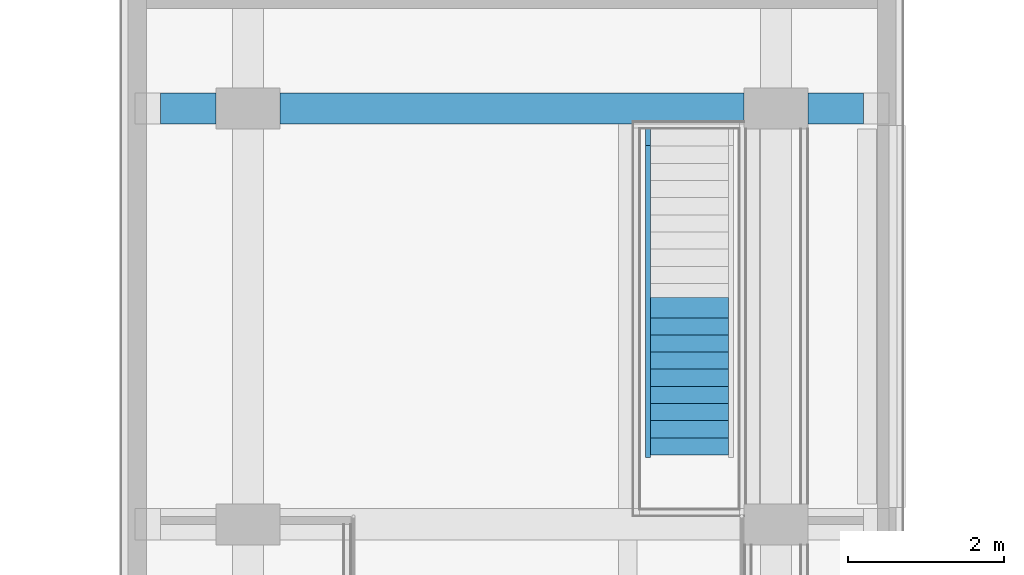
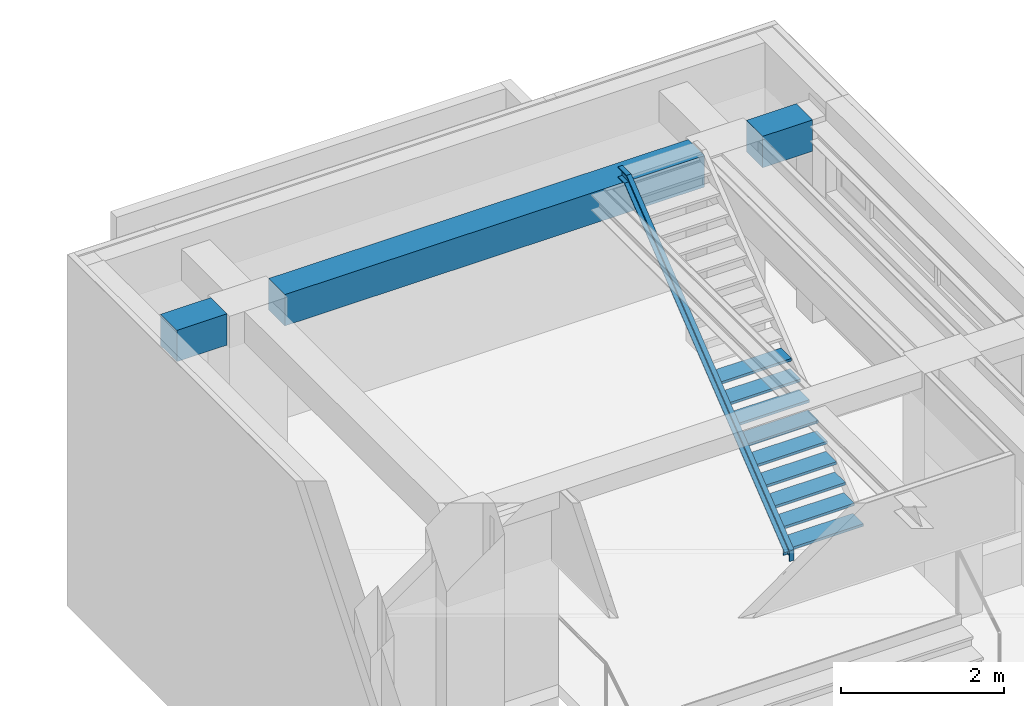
# One storey, part 65 of 135: 10 members, 1 beam, 1 element without a shape of its own.
"""IFC2X3 building model written with IfcOpenShell, lengths in millimetres."""

from ifc_helpers import new_model, entity, si_unit, converted_unit, derived_unit, money_unit, direction, frame, origin_with_axes, place, context, subcontext, project, spatial, faceted_brep, material, type_object, element, aggregate, save


model = new_model("IFC2X3")

# Units and contexts
model_context = context("Model", 3, precision=0.01, world=origin_with_axes(), true_north=direction((0.0, 1.0)))
body_context = subcontext(model_context, "Body", "Model", "MODEL_VIEW")
ifc_project = project(units=[si_unit("LENGTHUNIT", "METRE", prefix="MILLI"), si_unit("AREAUNIT", "SQUARE_METRE"), si_unit("VOLUMEUNIT", "CUBIC_METRE"), converted_unit("PLANEANGLEUNIT", "DEGREE", entity("IfcPlaneAngleMeasure", 0.0174532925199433), si_unit("PLANEANGLEUNIT", "RADIAN"), dimensions=[0, 0, 0, 0, 0, 0, 0]), money_unit("EUR"), converted_unit("TIMEUNIT", "Year", entity("IfcTimeMeasure", 31557600.0), si_unit("TIMEUNIT", "SECOND"), dimensions=[0, 0, 1, 0, 0, 0, 0]), si_unit("MASSUNIT", "GRAM", prefix="KILO"), si_unit("THERMODYNAMICTEMPERATUREUNIT", "DEGREE_CELSIUS"), si_unit("LUMINOUSINTENSITYUNIT", "LUMEN"), si_unit("ENERGYUNIT", "JOULE", prefix="MEGA"), derived_unit("THERMALCONDUCTANCEUNIT", [(si_unit("POWERUNIT", "WATT"), 1), (si_unit("LENGTHUNIT", "METRE"), -1), (si_unit("THERMODYNAMICTEMPERATUREUNIT", "KELVIN"), -1)]), derived_unit("SPECIFICHEATCAPACITYUNIT", [(si_unit("ENERGYUNIT", "JOULE"), 1), (si_unit("MASSUNIT", "GRAM", prefix="KILO"), -1), (si_unit("THERMODYNAMICTEMPERATUREUNIT", "KELVIN"), -1)]), derived_unit("MASSDENSITYUNIT", [(si_unit("MASSUNIT", "GRAM", prefix="KILO"), 1), (si_unit("VOLUMEUNIT", "CUBIC_METRE"), -1)])], contexts=[model_context])

# Site, building, storey
site_placement = place(None, origin_with_axes())
site = spatial("IfcSite", under=ifc_project, at=site_placement, Name="Site", CompositionType="ELEMENT")
building_placement = place(site_placement, origin_with_axes())
building = spatial("IfcBuilding", under=site, at=building_placement, Name="Naam gebouw", CompositionType="ELEMENT")
storey_placement = place(building_placement, origin_with_axes())
storey = spatial("IfcBuildingStorey", under=building, at=storey_placement, Name="Begane grond N", CompositionType="ELEMENT", Elevation=0.0)

# Stair, members
stair_placement = place(storey_placement, frame((26995.99999999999, 50163.41242510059, 800.0), z_axis=(0.0, 0.0, 1.0), x_axis=(1.0, 0.0, 0.0)))
stair = element("IfcStair", 1, at=stair_placement, inside=storey, Name="_Trap-x", ShapeType="NOTDEFINED")
ifc_material_1 = material(Name="Metaal - Staal C")
member_type_1 = type_object("IfcMemberType", Name="IfcMember", PredefinedType="NOTDEFINED")
member_1_placement = place(stair_placement, origin_with_axes())
member_1 = element("IfcMember", 2, at=member_1_placement, type_object=member_type_1, material=ifc_material_1, Name="_Trapconstructie-x", context=body_context, shape_type="Brep", body=[
    faceted_brep([(-65.00000000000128, 130.0000000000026, 0.0), (-65.00000000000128, 130.0000000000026, 81.86647783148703), (0.0, 130.0000000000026, 81.86647783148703), (0.0, 130.0000000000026, 0.0), (-65.00000000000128, 119.5000000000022, 0.0), (-65.00000000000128, 119.5000000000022, 86.9073873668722), (-65.00000000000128, 96.9335565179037, 55.36585925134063), (0.0, 96.9335565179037, 55.36585925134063), (0.0, -30.00000000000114, 158.6803374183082), (0.0, -30.00000000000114, 0.0), (-65.00000000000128, -30.00000000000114, 0.0), (-65.00000000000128, -19.50000000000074, 0.0), (-7.500000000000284, -19.50000000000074, 0.0), (-7.500000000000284, 119.5000000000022, 0.0), (-7.500000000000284, 119.5000000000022, 86.9073873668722), (-65.00000000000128, 90.36708978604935, 63.55924162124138), (-65.00000000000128, 316.9335565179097, 231.6816487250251), (0.0, 316.9335565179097, 231.6816487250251), (0.0, -3.126888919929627, 180.2174001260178), (-65.00000000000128, -30.00000000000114, 158.6803374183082), (-65.00000000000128, -19.50000000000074, 153.6394278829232), (-7.500000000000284, -19.50000000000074, 153.6394278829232), (-7.500000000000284, 90.36708978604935, 63.55924162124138), (-65.00000000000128, 310.3670897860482, 239.8750310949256), (-65.00000000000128, 536.9335565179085, 407.9974381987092), (0.0, 536.9335565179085, 407.9974381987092), (0.0, 216.8731110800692, 356.5331895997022), (-65.00000000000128, -3.126888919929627, 180.2174001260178), (-65.00000000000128, 3.439577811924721, 172.0240177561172), (-7.500000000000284, 3.439577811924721, 172.0240177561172), (-7.500000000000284, 310.3670897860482, 239.8750310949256), (-65.00000000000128, 530.367089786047, 416.19082056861), (-65.00000000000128, 756.9335565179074, 584.3132276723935), (0.0, 756.9335565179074, 584.3132276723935), (0.0, 436.8731110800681, 532.8489790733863), (-65.00000000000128, 216.8731110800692, 356.5331895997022), (-65.00000000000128, 223.4395778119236, 348.3398072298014), (-7.500000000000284, 223.4395778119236, 348.3398072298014), (-7.500000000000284, 530.367089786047, 416.19082056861), (-65.00000000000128, 750.3670897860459, 592.506610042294), (-65.00000000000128, 976.9335565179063, 760.6290171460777), (0.0, 976.9335565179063, 760.6290171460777), (0.0, 656.873111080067, 709.1647685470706), (-65.00000000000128, 436.8731110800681, 532.8489790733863), (-65.00000000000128, 443.4395778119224, 524.6555967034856), (-7.500000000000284, 443.4395778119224, 524.6555967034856), (-7.500000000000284, 750.3670897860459, 592.506610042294), (-65.00000000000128, 970.3670897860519, 768.8223995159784), (-65.00000000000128, 1196.933556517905, 936.9448066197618), (0.0, 1196.933556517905, 936.9448066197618), (0.0, 876.8731110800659, 885.4805580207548), (-65.00000000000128, 656.873111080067, 709.1647685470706), (-65.00000000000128, 663.4395778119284, 700.9713861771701), (-7.500000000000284, 663.4395778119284, 700.9713861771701), (-7.500000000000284, 970.3670897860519, 768.8223995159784), (-65.00000000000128, 1190.367089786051, 945.1381889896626), (-65.00000000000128, 1416.933556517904, 1113.260596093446), (0.0, 1416.933556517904, 1113.260596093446), (0.0, 1096.873111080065, 1061.796347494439), (-65.00000000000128, 876.8731110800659, 885.4805580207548), (-65.00000000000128, 883.4395778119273, 877.287175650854), (-7.500000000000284, 883.4395778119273, 877.287175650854), (-7.500000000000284, 1190.367089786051, 945.1381889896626), (-65.00000000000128, 1410.36708978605, 1121.453978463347), (-65.00000000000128, 1636.93355651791, 1289.57638556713), (0.0, 1636.93355651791, 1289.57638556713), (0.0, 1316.873111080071, 1238.112136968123), (-65.00000000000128, 1096.873111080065, 1061.796347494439), (-65.00000000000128, 1103.439577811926, 1053.602965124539), (-7.500000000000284, 1103.439577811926, 1053.602965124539), (-7.500000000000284, 1410.36708978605, 1121.453978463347), (-65.00000000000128, 1630.367089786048, 1297.769767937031), (-65.00000000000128, 1856.933556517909, 1465.892175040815), (0.0, 1856.933556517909, 1465.892175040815), (0.0, 1536.87311108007, 1414.427926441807), (-65.00000000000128, 1316.873111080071, 1238.112136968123), (-65.00000000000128, 1323.439577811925, 1229.918754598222), (-7.500000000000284, 1323.439577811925, 1229.918754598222), (-7.500000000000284, 1630.367089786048, 1297.769767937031), (-65.00000000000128, 1850.367089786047, 1474.085557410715), (-65.00000000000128, 2076.933556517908, 1642.207964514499), (0.0, 2076.933556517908, 1642.207964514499), (0.0, 1756.873111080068, 1590.743715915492), (-65.00000000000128, 1536.87311108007, 1414.427926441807), (-65.00000000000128, 1543.439577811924, 1406.234544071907), (-7.500000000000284, 1543.439577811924, 1406.234544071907), (-7.500000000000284, 1850.367089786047, 1474.085557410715), (-65.00000000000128, 2070.367089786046, 1650.4013468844), (-65.00000000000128, 2296.933556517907, 1818.523753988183), (0.0, 2296.933556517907, 1818.523753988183), (0.0, 1976.873111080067, 1767.059505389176), (-65.00000000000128, 1756.873111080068, 1590.743715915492), (-65.00000000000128, 1763.439577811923, 1582.550333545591), (-7.500000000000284, 1763.439577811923, 1582.550333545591), (-7.500000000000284, 2070.367089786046, 1650.4013468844), (-65.00000000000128, 2290.367089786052, 1826.717136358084), (-65.00000000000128, 2516.933556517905, 1994.839543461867), (0.0, 2516.933556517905, 1994.839543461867), (0.0, 2196.873111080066, 1943.37529486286), (-65.00000000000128, 1976.873111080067, 1767.059505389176), (-65.00000000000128, 1983.439577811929, 1758.866123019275), (-7.500000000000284, 1983.439577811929, 1758.866123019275), (-7.500000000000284, 2290.367089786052, 1826.717136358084), (-65.00000000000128, 2510.367089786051, 2003.032925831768), (-65.00000000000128, 2736.933556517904, 2171.155332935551), (0.0, 2736.933556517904, 2171.155332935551), (0.0, 2416.873111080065, 2119.691084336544), (-65.00000000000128, 2196.873111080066, 1943.37529486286), (-65.00000000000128, 2203.439577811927, 1935.181912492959), (-7.500000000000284, 2203.439577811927, 1935.181912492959), (-7.500000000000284, 2510.367089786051, 2003.032925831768), (-65.00000000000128, 2730.36708978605, 2179.348715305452), (-65.00000000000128, 2956.933556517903, 2347.471122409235), (0.0, 2956.933556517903, 2347.471122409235), (0.0, 2636.873111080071, 2296.006873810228), (-65.00000000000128, 2416.873111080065, 2119.691084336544), (-65.00000000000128, 2423.439577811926, 2111.497701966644), (-7.500000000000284, 2423.439577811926, 2111.497701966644), (-7.500000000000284, 2730.36708978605, 2179.348715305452), (-65.00000000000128, 2950.367089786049, 2355.664504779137), (-65.00000000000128, 3176.933556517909, 2523.78691188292), (0.0, 3176.933556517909, 2523.78691188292), (0.0, 2856.87311108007, 2472.322663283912), (-65.00000000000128, 2636.873111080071, 2296.006873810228), (-65.00000000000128, 2643.439577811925, 2287.813491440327), (-7.500000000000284, 2643.439577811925, 2287.813491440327), (-7.500000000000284, 2950.367089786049, 2355.664504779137), (-65.00000000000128, 3170.367089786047, 2531.98029425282), (-65.00000000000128, 3396.933556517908, 2700.102701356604), (0.0, 3396.933556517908, 2700.102701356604), (0.0, 3076.873111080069, 2648.638452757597), (-65.00000000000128, 2856.87311108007, 2472.322663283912), (-65.00000000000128, 2863.439577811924, 2464.129280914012), (-7.500000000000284, 2863.439577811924, 2464.129280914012), (-7.500000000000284, 3170.367089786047, 2531.98029425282), (-65.00000000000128, 3390.367089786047, 2708.296083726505), (-65.00000000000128, 3616.933556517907, 2876.418490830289), (0.0, 3616.933556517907, 2876.418490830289), (0.0, 3296.873111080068, 2824.954242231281), (-65.00000000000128, 3076.873111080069, 2648.638452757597), (-65.00000000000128, 3083.439577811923, 2640.445070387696), (-7.500000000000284, 3083.439577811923, 2640.445070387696), (-7.500000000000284, 3390.367089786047, 2708.296083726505), (-65.00000000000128, 3610.367089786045, 2884.611873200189), (-65.00000000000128, 3836.933556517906, 3052.734280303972), (0.0, 3836.933556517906, 3052.734280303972), (0.0, 3516.873111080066, 3001.270031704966), (-65.00000000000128, 3296.873111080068, 2824.954242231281), (-65.00000000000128, 3303.439577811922, 2816.760859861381), (-7.500000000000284, 3303.439577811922, 2816.760859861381), (-7.500000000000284, 3610.367089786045, 2884.611873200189), (-65.00000000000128, 3830.367089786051, 3060.927662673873), (-65.00000000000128, 4024.054961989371, 3202.700000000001), (0.0, 4024.054961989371, 3202.700000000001), (0.0, 3736.873111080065, 3177.585821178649), (-65.00000000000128, 3516.873111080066, 3001.270031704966), (-65.00000000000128, 3523.439577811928, 2993.076649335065), (-7.500000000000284, 3523.439577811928, 2993.076649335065), (-7.500000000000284, 3830.367089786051, 3060.927662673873), (-65.00000000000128, 4020.36660322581, 3213.200000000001), (-65.00000000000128, 4180.0, 3202.7), (0.0, 4180.0, 3202.7), (0.0, 3967.85139987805, 3362.7), (-65.00000000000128, 3736.873111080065, 3177.585821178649), (-65.00000000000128, 3743.439577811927, 3169.392438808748), (-7.500000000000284, 3743.439577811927, 3169.392438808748), (-7.500000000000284, 4020.36660322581, 3213.200000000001), (-65.00000000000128, 4180.0, 3213.200000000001), (-7.500000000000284, 4180.0, 3213.200000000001), (-7.500000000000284, 4180.0, 3352.200000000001), (-65.00000000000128, 4180.0, 3352.200000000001), (-65.00000000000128, 4180.0, 3362.7), (0.0, 4180.0, 3362.7), (-65.00000000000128, 3967.85139987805, 3362.7), (-65.00000000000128, 3971.539758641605, 3352.200000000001), (-7.500000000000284, 3971.539758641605, 3352.200000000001)], [[[0, 1, 2, 3]], [[4, 5, 1, 0]], [[2, 1, 6, 7]], [[3, 2, 8, 9]], [[3, 9, 10, 11, 12, 13, 4, 0]], [[13, 14, 5, 4]], [[1, 5, 15, 6]], [[7, 6, 16, 17]], [[8, 2, 7, 18]], [[9, 8, 19, 10]], [[10, 19, 20, 11]], [[11, 20, 21, 12]], [[12, 21, 14, 13]], [[5, 14, 22, 15]], [[6, 15, 23, 16]], [[17, 16, 24, 25]], [[18, 7, 17, 26]], [[19, 8, 18, 27]], [[20, 19, 27, 28]], [[21, 20, 28, 29]], [[14, 21, 29, 22]], [[15, 22, 30, 23]], [[16, 23, 31, 24]], [[25, 24, 32, 33]], [[26, 17, 25, 34]], [[27, 18, 26, 35]], [[28, 27, 35, 36]], [[29, 28, 36, 37]], [[22, 29, 37, 30]], [[23, 30, 38, 31]], [[24, 31, 39, 32]], [[33, 32, 40, 41]], [[34, 25, 33, 42]], [[35, 26, 34, 43]], [[36, 35, 43, 44]], [[37, 36, 44, 45]], [[30, 37, 45, 38]], [[31, 38, 46, 39]], [[32, 39, 47, 40]], [[41, 40, 48, 49]], [[42, 33, 41, 50]], [[43, 34, 42, 51]], [[44, 43, 51, 52]], [[45, 44, 52, 53]], [[38, 45, 53, 46]], [[39, 46, 54, 47]], [[40, 47, 55, 48]], [[49, 48, 56, 57]], [[50, 41, 49, 58]], [[51, 42, 50, 59]], [[52, 51, 59, 60]], [[53, 52, 60, 61]], [[46, 53, 61, 54]], [[47, 54, 62, 55]], [[48, 55, 63, 56]], [[57, 56, 64, 65]], [[58, 49, 57, 66]], [[59, 50, 58, 67]], [[60, 59, 67, 68]], [[61, 60, 68, 69]], [[54, 61, 69, 62]], [[55, 62, 70, 63]], [[56, 63, 71, 64]], [[65, 64, 72, 73]], [[66, 57, 65, 74]], [[67, 58, 66, 75]], [[68, 67, 75, 76]], [[69, 68, 76, 77]], [[62, 69, 77, 70]], [[63, 70, 78, 71]], [[64, 71, 79, 72]], [[73, 72, 80, 81]], [[74, 65, 73, 82]], [[75, 66, 74, 83]], [[76, 75, 83, 84]], [[77, 76, 84, 85]], [[70, 77, 85, 78]], [[71, 78, 86, 79]], [[72, 79, 87, 80]], [[81, 80, 88, 89]], [[82, 73, 81, 90]], [[83, 74, 82, 91]], [[84, 83, 91, 92]], [[85, 84, 92, 93]], [[78, 85, 93, 86]], [[79, 86, 94, 87]], [[80, 87, 95, 88]], [[89, 88, 96, 97]], [[90, 81, 89, 98]], [[91, 82, 90, 99]], [[92, 91, 99, 100]], [[93, 92, 100, 101]], [[86, 93, 101, 94]], [[87, 94, 102, 95]], [[88, 95, 103, 96]], [[97, 96, 104, 105]], [[98, 89, 97, 106]], [[99, 90, 98, 107]], [[100, 99, 107, 108]], [[101, 100, 108, 109]], [[94, 101, 109, 102]], [[95, 102, 110, 103]], [[96, 103, 111, 104]], [[105, 104, 112, 113]], [[106, 97, 105, 114]], [[107, 98, 106, 115]], [[108, 107, 115, 116]], [[109, 108, 116, 117]], [[102, 109, 117, 110]], [[103, 110, 118, 111]], [[104, 111, 119, 112]], [[113, 112, 120, 121]], [[114, 105, 113, 122]], [[115, 106, 114, 123]], [[116, 115, 123, 124]], [[117, 116, 124, 125]], [[110, 117, 125, 118]], [[111, 118, 126, 119]], [[112, 119, 127, 120]], [[121, 120, 128, 129]], [[122, 113, 121, 130]], [[123, 114, 122, 131]], [[124, 123, 131, 132]], [[125, 124, 132, 133]], [[118, 125, 133, 126]], [[119, 126, 134, 127]], [[120, 127, 135, 128]], [[129, 128, 136, 137]], [[130, 121, 129, 138]], [[131, 122, 130, 139]], [[132, 131, 139, 140]], [[133, 132, 140, 141]], [[126, 133, 141, 134]], [[127, 134, 142, 135]], [[128, 135, 143, 136]], [[137, 136, 144, 145]], [[138, 129, 137, 146]], [[139, 130, 138, 147]], [[140, 139, 147, 148]], [[141, 140, 148, 149]], [[134, 141, 149, 142]], [[135, 142, 150, 143]], [[136, 143, 151, 144]], [[145, 144, 152, 153]], [[146, 137, 145, 154]], [[147, 138, 146, 155]], [[148, 147, 155, 156]], [[149, 148, 156, 157]], [[142, 149, 157, 150]], [[143, 150, 158, 151]], [[144, 151, 159, 152]], [[153, 152, 160, 161]], [[154, 145, 153, 162]], [[155, 146, 154, 163]], [[156, 155, 163, 164]], [[157, 156, 164, 165]], [[150, 157, 165, 158]], [[151, 158, 166, 159]], [[152, 159, 167, 160]], [[161, 160, 167, 168, 169, 170, 171, 172]], [[162, 153, 161, 172]], [[163, 154, 162, 173]], [[164, 163, 173, 174]], [[165, 164, 174, 175]], [[158, 165, 175, 166]], [[159, 166, 168, 167]], [[166, 175, 169, 168]], [[175, 174, 170, 169]], [[174, 173, 171, 170]], [[173, 162, 172, 171]]]),
])
member_type_2 = type_object("IfcMemberType", Name="IfcMember", PredefinedType="USERDEFINED")
member_2_placement = place(stair_placement, frame((500.0, 0.0, 176.3157894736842), z_axis=(0.0, 0.0, 1.0), x_axis=(1.0, 0.0, 0.0)))
member_2 = element("IfcMember", 3, at=member_2_placement, type_object=member_type_2, material=ifc_material_1, Name="_Traptrede-x", context=body_context, shape_type="Brep", body=[
    faceted_brep([(-500.0, 0.0, -38.0), (500.0, 0.0, -38.0), (500.0, 0.0, 0.0), (-500.0, 0.0, 0.0), (-500.0, 259.9999999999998, -38.0), (500.0, 259.9999999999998, -38.0), (500.0, 259.9999999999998, 0.0), (-500.0, 259.9999999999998, 0.0)], [[[0, 1, 2, 3]], [[0, 4, 5, 1]], [[1, 5, 6, 2]], [[3, 2, 6, 7]], [[4, 0, 3, 7]], [[5, 4, 7, 6]]]),
])
member_3_placement = place(stair_placement, frame((500.0, 439.9999999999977, 528.9473684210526), z_axis=(0.0, 0.0, 1.0), x_axis=(1.0, 0.0, 0.0)))
member_3 = element("IfcMember", 4, at=member_3_placement, type_object=member_type_2, material=ifc_material_1, Name="_Traptrede-x", context=body_context, shape_type="Brep", body=[
    faceted_brep([(-500.0, 0.0, -38.0), (500.0, 0.0, -38.0), (500.0, 0.0, 0.0), (-500.0, 0.0, 0.0), (-500.0, 259.9999999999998, -38.0), (500.0, 259.9999999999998, -38.0), (500.0, 259.9999999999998, 0.0), (-500.0, 259.9999999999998, 0.0)], [[[0, 1, 2, 3]], [[0, 4, 5, 1]], [[1, 5, 6, 2]], [[3, 2, 6, 7]], [[4, 0, 3, 7]], [[5, 4, 7, 6]]]),
])
member_4_placement = place(stair_placement, frame((500.0, 659.9999999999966, 705.263157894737), z_axis=(0.0, 0.0, 1.0), x_axis=(1.0, 0.0, 0.0)))
member_4 = element("IfcMember", 5, at=member_4_placement, type_object=member_type_2, material=ifc_material_1, Name="_Traptrede-x", context=body_context, shape_type="Brep", body=[
    faceted_brep([(-500.0, 0.0, -38.0), (500.0, 0.0, -38.0), (500.0, 0.0, 0.0), (-500.0, 0.0, 0.0), (-500.0, 259.9999999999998, -38.0), (500.0, 259.9999999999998, -38.0), (500.0, 259.9999999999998, 0.0), (-500.0, 259.9999999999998, 0.0)], [[[0, 1, 2, 3]], [[0, 4, 5, 1]], [[1, 5, 6, 2]], [[3, 2, 6, 7]], [[4, 0, 3, 7]], [[5, 4, 7, 6]]]),
])
member_5_placement = place(stair_placement, frame((500.0, 880.0000000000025, 881.578947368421), z_axis=(0.0, 0.0, 1.0), x_axis=(1.0, 0.0, 0.0)))
member_5 = element("IfcMember", 6, at=member_5_placement, type_object=member_type_2, material=ifc_material_1, Name="_Traptrede-x", context=body_context, shape_type="Brep", body=[
    faceted_brep([(-500.0, 0.0, -38.0), (500.0, 0.0, -38.0), (500.0, 0.0, 0.0), (-500.0, 0.0, 0.0), (-500.0, 259.9999999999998, -38.0), (500.0, 259.9999999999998, -38.0), (500.0, 259.9999999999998, 0.0), (-500.0, 259.9999999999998, 0.0)], [[[0, 1, 2, 3]], [[0, 4, 5, 1]], [[1, 5, 6, 2]], [[3, 2, 6, 7]], [[4, 0, 3, 7]], [[5, 4, 7, 6]]]),
])
member_6_placement = place(stair_placement, frame((500.0, 219.9999999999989, 352.6315789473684), z_axis=(0.0, 0.0, 1.0), x_axis=(1.0, 0.0, 0.0)))
member_6 = element("IfcMember", 7, at=member_6_placement, type_object=member_type_2, material=ifc_material_1, Name="_Traptrede-x", context=body_context, shape_type="Brep", body=[
    faceted_brep([(-500.0, 0.0, -38.0), (500.0, 0.0, -38.0), (500.0, 0.0, 0.0), (-500.0, 0.0, 0.0), (-500.0, 259.9999999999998, -38.0), (500.0, 259.9999999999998, -38.0), (500.0, 259.9999999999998, 0.0), (-500.0, 259.9999999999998, 0.0)], [[[0, 1, 2, 3]], [[0, 4, 5, 1]], [[1, 5, 6, 2]], [[3, 2, 6, 7]], [[4, 0, 3, 7]], [[5, 4, 7, 6]]]),
])
member_7_placement = place(stair_placement, frame((500.0, 1100.000000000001, 1057.894736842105), z_axis=(0.0, 0.0, 1.0), x_axis=(1.0, 0.0, 0.0)))
member_7 = element("IfcMember", 8, at=member_7_placement, type_object=member_type_2, material=ifc_material_1, Name="_Traptrede-x", context=body_context, shape_type="Brep", body=[
    faceted_brep([(-500.0, 0.0, -38.0), (500.0, 0.0, -38.0), (500.0, 0.0, 0.0), (-500.0, 0.0, 0.0), (-500.0, 259.9999999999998, -38.0), (500.0, 259.9999999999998, -38.0), (500.0, 259.9999999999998, 0.0), (-500.0, 259.9999999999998, 0.0)], [[[0, 1, 2, 3]], [[0, 4, 5, 1]], [[1, 5, 6, 2]], [[3, 2, 6, 7]], [[4, 0, 3, 7]], [[5, 4, 7, 6]]]),
])
member_8_placement = place(stair_placement, frame((500.0, 1320.0, 1234.21052631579), z_axis=(0.0, 0.0, 1.0), x_axis=(1.0, 0.0, 0.0)))
member_8 = element("IfcMember", 9, at=member_8_placement, type_object=member_type_2, material=ifc_material_1, Name="_Traptrede-x", context=body_context, shape_type="Brep", body=[
    faceted_brep([(-500.0, 0.0, -38.0), (500.0, 0.0, -38.0), (500.0, 0.0, 0.0), (-500.0, 0.0, 0.0), (-500.0, 259.9999999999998, -38.0), (500.0, 259.9999999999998, -38.0), (500.0, 259.9999999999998, 0.0), (-500.0, 259.9999999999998, 0.0)], [[[0, 1, 2, 3]], [[0, 4, 5, 1]], [[1, 5, 6, 2]], [[3, 2, 6, 7]], [[4, 0, 3, 7]], [[5, 4, 7, 6]]]),
])
member_9_placement = place(stair_placement, frame((500.0, 1759.999999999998, 1586.842105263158), z_axis=(0.0, 0.0, 1.0), x_axis=(1.0, 0.0, 0.0)))
member_9 = element("IfcMember", 10, at=member_9_placement, type_object=member_type_2, material=ifc_material_1, Name="_Traptrede-x", context=body_context, shape_type="Brep", body=[
    faceted_brep([(-500.0, 0.0, -38.0), (500.0, 0.0, -38.0), (500.0, 0.0, 0.0), (-500.0, 0.0, 0.0), (-500.0, 259.9999999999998, -38.0), (500.0, 259.9999999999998, -38.0), (500.0, 259.9999999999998, 0.0), (-500.0, 259.9999999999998, 0.0)], [[[0, 1, 2, 3]], [[0, 4, 5, 1]], [[1, 5, 6, 2]], [[3, 2, 6, 7]], [[4, 0, 3, 7]], [[5, 4, 7, 6]]]),
])
member_10_placement = place(stair_placement, frame((500.0, 1539.999999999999, 1410.526315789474), z_axis=(0.0, 0.0, 1.0), x_axis=(1.0, 0.0, 0.0)))
member_10 = element("IfcMember", 11, at=member_10_placement, type_object=member_type_2, material=ifc_material_1, Name="_Traptrede-x", context=body_context, shape_type="Brep", body=[
    faceted_brep([(-500.0, 0.0, -38.0), (500.0, 0.0, -38.0), (500.0, 0.0, 0.0), (-500.0, 0.0, 0.0), (-500.0, 259.9999999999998, -38.0), (500.0, 259.9999999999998, -38.0), (500.0, 259.9999999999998, 0.0), (-500.0, 259.9999999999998, 0.0)], [[[0, 1, 2, 3]], [[0, 4, 5, 1]], [[1, 5, 6, 2]], [[3, 2, 6, 7]], [[4, 0, 3, 7]], [[5, 4, 7, 6]]]),
])
aggregate(stair, [member_1, member_2, member_3, member_4, member_5, member_6, member_7, member_8, member_9, member_10])

# Beam
ifc_material_2 = material(Name="ALG - CONSTRUCTIEF KOLOM")
beam_type = type_object("IfcBeamType", Name="ALG - CONSTRUCTIEF KOLOM 400 x 470", PredefinedType="BEAM")
beam_placement = place(storey_placement, frame((20386.0, 54605.9124251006, 3850.0), z_axis=(0.0, 0.0, 1.0), x_axis=(0.0, -1.0, 0.0)))
element("IfcBeam", 12, at=beam_placement, inside=storey, type_object=beam_type, material=ifc_material_2, Name="_Balk-x", ObjectType="BEAM", context=body_context, shape_type="Brep", body=[
    faceted_brep([(200.0000000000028, 329.9999999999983, 0.0), (200.0000000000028, 1040.000000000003, 0.0), (-200.0000000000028, 1040.000000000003, 0.0), (-200.0000000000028, 329.9999999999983, 0.0), (200.0000000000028, 329.9999999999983, -470.0020317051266), (200.0000000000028, 1040.000000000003, -470.0020317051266), (-200.0000000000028, 1040.000000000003, -470.0020317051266), (-200.0000000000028, 329.9999999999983, -470.0020317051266)], [[[0, 1, 2, 3]], [[4, 5, 1, 0]], [[5, 6, 2, 1]], [[3, 2, 6, 7]], [[4, 0, 3, 7]], [[7, 6, 5, 4]]]),
    faceted_brep([(-200.0000000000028, 9339.999999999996, -470.0020317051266), (-200.0000000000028, 8629.999999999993, -470.0020317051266), (-200.0000000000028, 8629.999999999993, 0.0), (-200.0000000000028, 9339.999999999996, 0.0), (200.0000000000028, 9339.999999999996, -470.0020317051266), (200.0000000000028, 8629.999999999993, -470.0020317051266), (200.0000000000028, 8629.999999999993, 0.0), (200.0000000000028, 9339.999999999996, 0.0)], [[[0, 1, 2, 3]], [[4, 5, 1, 0]], [[5, 6, 2, 1]], [[3, 2, 6, 7]], [[4, 0, 3, 7]], [[7, 6, 5, 4]]]),
    faceted_brep([(-200.0000000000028, 7809.999999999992, -470.0020317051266), (-200.0000000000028, 1860.000000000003, -470.0020317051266), (-200.0000000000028, 1860.000000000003, 0.0), (-200.0000000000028, 7809.999999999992, 0.0), (200.0000000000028, 7809.999999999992, -470.0020317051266), (200.0000000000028, 1860.000000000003, -470.0020317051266), (200.0000000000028, 1860.000000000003, 0.0), (200.0000000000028, 7809.999999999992, 0.0)], [[[0, 1, 2, 3]], [[4, 5, 1, 0]], [[5, 6, 2, 1]], [[3, 2, 6, 7]], [[4, 0, 3, 7]], [[7, 6, 5, 4]]]),
])

save(model, "model.ifc")
